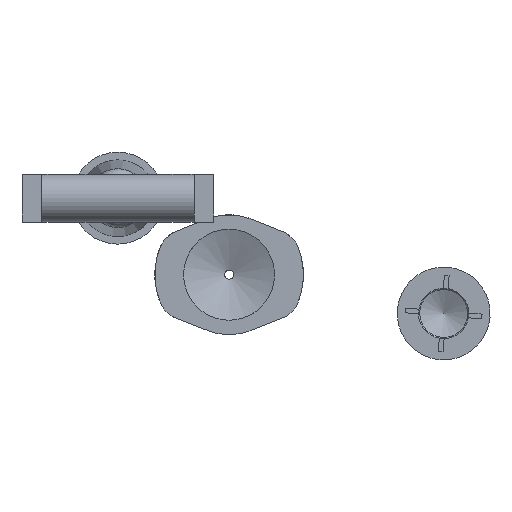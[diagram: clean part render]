
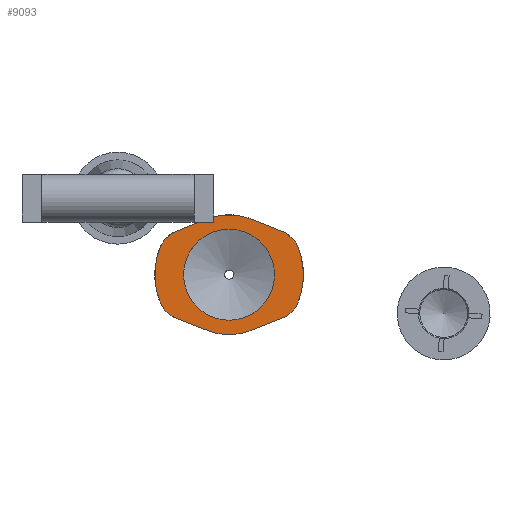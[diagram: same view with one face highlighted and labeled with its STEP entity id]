
A CAD part, left-side view. The second image highlights one B-rep face of the part: STEP entity #9093.
In plain terms, the highlighted planar face has unit normal (-1, 0, 0).
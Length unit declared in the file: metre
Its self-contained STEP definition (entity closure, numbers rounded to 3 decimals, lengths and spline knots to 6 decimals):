
#273=PLANE('',#11415);
#451=CIRCLE('',#11181,0.006);
#458=CIRCLE('',#11190,0.0125);
#469=CIRCLE('',#11203,0.006);
#471=CIRCLE('',#11206,0.006);
#483=CIRCLE('',#11219,0.006);
#570=CIRCLE('',#11416,0.0155);
#571=CIRCLE('',#11417,0.0125);
#572=CIRCLE('',#11418,0.0155);
#573=CIRCLE('',#11419,0.0095);
#998=LINE('',#28360,#1728);
#1017=LINE('',#28409,#1747);
#1040=LINE('',#28499,#1770);
#1055=LINE('',#28529,#1785);
#1728=VECTOR('',#12460,1.);
#1747=VECTOR('',#12495,1.);
#1770=VECTOR('',#12568,1.);
#1785=VECTOR('',#12585,1.);
#3956=ORIENTED_EDGE('',*,*,#5674,.T.);
#3957=ORIENTED_EDGE('',*,*,#5687,.T.);
#3958=ORIENTED_EDGE('',*,*,#6080,.F.);
#3959=ORIENTED_EDGE('',*,*,#5715,.T.);
#3960=ORIENTED_EDGE('',*,*,#5733,.T.);
#3961=ORIENTED_EDGE('',*,*,#6081,.T.);
#3962=ORIENTED_EDGE('',*,*,#5718,.T.);
#3963=ORIENTED_EDGE('',*,*,#5691,.T.);
#3964=ORIENTED_EDGE('',*,*,#6082,.F.);
#3965=ORIENTED_EDGE('',*,*,#5635,.T.);
#3966=ORIENTED_EDGE('',*,*,#5649,.T.);
#3967=ORIENTED_EDGE('',*,*,#5658,.T.);
#3968=ORIENTED_EDGE('',*,*,#6083,.T.);
#5635=EDGE_CURVE('',#6773,#6772,#451,.T.);
#5649=EDGE_CURVE('',#6772,#6786,#998,.T.);
#5658=EDGE_CURVE('',#6786,#6794,#458,.T.);
#5674=EDGE_CURVE('',#6794,#6808,#1017,.T.);
#5687=EDGE_CURVE('',#6808,#6820,#469,.T.);
#5691=EDGE_CURVE('',#6825,#6824,#471,.T.);
#5715=EDGE_CURVE('',#6836,#6848,#483,.T.);
#5718=EDGE_CURVE('',#6851,#6825,#1040,.T.);
#5733=EDGE_CURVE('',#6848,#6864,#1055,.T.);
#6080=EDGE_CURVE('',#6836,#6820,#570,.T.);
#6081=EDGE_CURVE('',#6864,#6851,#571,.T.);
#6082=EDGE_CURVE('',#6773,#6824,#572,.T.);
#6083=EDGE_CURVE('',#7091,#7091,#573,.T.);
#6772=VERTEX_POINT('',#28330);
#6773=VERTEX_POINT('',#28332);
#6786=VERTEX_POINT('',#28359);
#6794=VERTEX_POINT('',#28377);
#6808=VERTEX_POINT('',#28408);
#6820=VERTEX_POINT('',#28434);
#6824=VERTEX_POINT('',#28443);
#6825=VERTEX_POINT('',#28445);
#6836=VERTEX_POINT('',#28468);
#6848=VERTEX_POINT('',#28492);
#6851=VERTEX_POINT('',#28500);
#6864=VERTEX_POINT('',#28528);
#7091=VERTEX_POINT('',#29214);
#7852=EDGE_LOOP('',(#3956,#3957,#3958,#3959,#3960,#3961,#3962,#3963,#3964,
#3965,#3966,#3967));
#7853=EDGE_LOOP('',(#3968));
#8436=FACE_BOUND('',#7852,.T.);
#8437=FACE_BOUND('',#7853,.T.);
#9093=ADVANCED_FACE('',(#8436,#8437),#273,.T.);
#11181=AXIS2_PLACEMENT_3D('',#28331,#12438,#12439);
#11190=AXIS2_PLACEMENT_3D('',#28378,#12472,#12473);
#11203=AXIS2_PLACEMENT_3D('',#28435,#12516,#12517);
#11206=AXIS2_PLACEMENT_3D('',#28444,#12524,#12525);
#11219=AXIS2_PLACEMENT_3D('',#28493,#12562,#12563);
#11415=AXIS2_PLACEMENT_3D('',#29209,#13232,#13233);
#11416=AXIS2_PLACEMENT_3D('',#29210,#13234,#13235);
#11417=AXIS2_PLACEMENT_3D('',#29211,#13236,#13237);
#11418=AXIS2_PLACEMENT_3D('',#29212,#13238,#13239);
#11419=AXIS2_PLACEMENT_3D('',#29213,#13240,#13241);
#12438=DIRECTION('',(-1.,0.,0.));
#12439=DIRECTION('',(0.,0.,-1.));
#12460=DIRECTION('',(0.,-0.93,-0.367));
#12472=DIRECTION('',(-1.,0.,0.));
#12473=DIRECTION('',(0.,0.,1.));
#12495=DIRECTION('',(0.,-0.93,0.367));
#12516=DIRECTION('',(-1.,0.,0.));
#12517=DIRECTION('',(0.,0.,1.));
#12524=DIRECTION('',(-1.,0.,0.));
#12525=DIRECTION('',(0.,0.,1.));
#12562=DIRECTION('',(-1.,0.,0.));
#12563=DIRECTION('',(0.,0.,-1.));
#12568=DIRECTION('',(0.,0.93,-0.367));
#12585=DIRECTION('',(0.,0.93,0.367));
#13232=DIRECTION('',(-1.,0.,0.));
#13233=DIRECTION('',(0.,0.,1.));
#13234=DIRECTION('',(1.,0.,0.));
#13235=DIRECTION('',(0.,0.,-1.));
#13236=DIRECTION('',(-1.,0.,0.));
#13237=DIRECTION('',(0.,0.,1.));
#13238=DIRECTION('',(1.,0.,0.));
#13239=DIRECTION('',(0.,0.,-1.));
#13240=DIRECTION('',(1.,0.,0.));
#13241=DIRECTION('',(0.,0.,-1.));
#28330=CARTESIAN_POINT('',(0.,0.011036,-0.00908));
#28331=CARTESIAN_POINT('',(0.,0.008832,-0.0035));
#28332=CARTESIAN_POINT('',(0.,0.01441,-0.005711));
#28359=CARTESIAN_POINT('',(0.,0.004592,-0.011626));
#28360=CARTESIAN_POINT('',(0.,0.004592,-0.011626));
#28377=CARTESIAN_POINT('',(0.,-0.004592,-0.011626));
#28378=CARTESIAN_POINT('',(0.,0.,0.));
#28408=CARTESIAN_POINT('',(0.,-0.011036,-0.00908));
#28409=CARTESIAN_POINT('',(0.,-0.004592,-0.011626));
#28434=CARTESIAN_POINT('',(0.,-0.01441,-0.005711));
#28435=CARTESIAN_POINT('',(0.,-0.008832,-0.0035));
#28443=CARTESIAN_POINT('',(0.,0.01441,0.005711));
#28444=CARTESIAN_POINT('',(0.,0.008832,0.0035));
#28445=CARTESIAN_POINT('',(0.,0.011036,0.00908));
#28468=CARTESIAN_POINT('',(0.,-0.01441,0.005711));
#28492=CARTESIAN_POINT('',(0.,-0.011036,0.00908));
#28493=CARTESIAN_POINT('',(0.,-0.008832,0.0035));
#28499=CARTESIAN_POINT('',(0.,0.004592,0.011626));
#28500=CARTESIAN_POINT('',(0.,0.004592,0.011626));
#28528=CARTESIAN_POINT('',(0.,-0.004592,0.011626));
#28529=CARTESIAN_POINT('',(0.,-0.004592,0.011626));
#29209=CARTESIAN_POINT('',(0.,0.0095,0.));
#29210=CARTESIAN_POINT('',(0.,0.,0.));
#29211=CARTESIAN_POINT('',(0.,0.,0.));
#29212=CARTESIAN_POINT('',(0.,0.,0.));
#29213=CARTESIAN_POINT('',(0.,0.,0.));
#29214=CARTESIAN_POINT('',(0.,0.,-0.0095));
